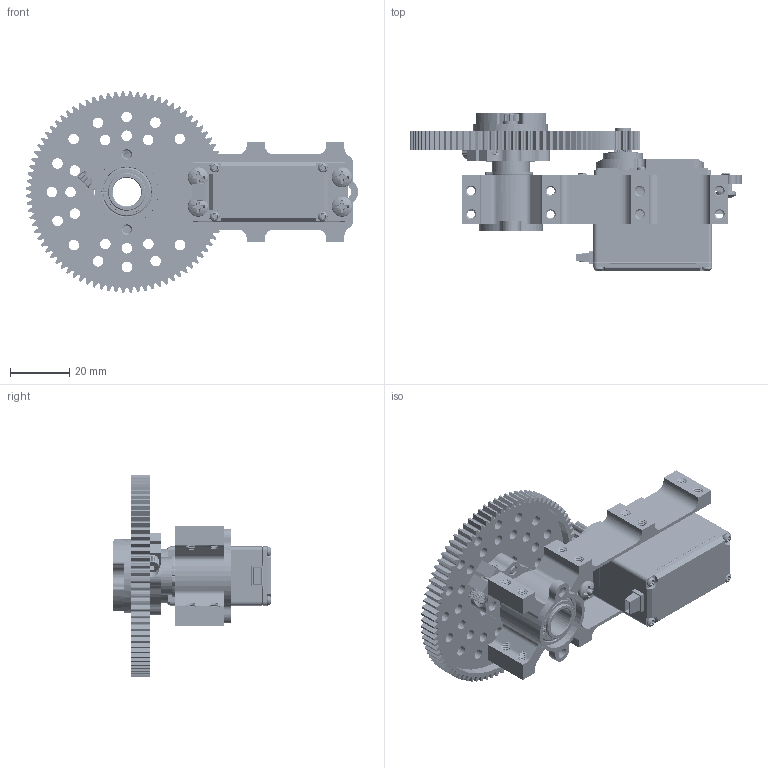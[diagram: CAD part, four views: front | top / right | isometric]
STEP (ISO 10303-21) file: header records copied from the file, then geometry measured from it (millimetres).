
FILE_DESCRIPTION (( 'STEP AP203' ), '1' );
FILE_NAME ('SG20-70.STEP', '2020-06-25T22:01:53', ( '' ), ( '' ), 'SwSTEP 2.0', 'SolidWorks 2016', '' );
FILE_SCHEMA (( 'CONFIG_CONTROL_DESIGN' ));
Length unit declared in the file: millimetre
Products named in the file (9): 545600; 545600 assembly; 632110_90128A121; 615210_Gear Blank; 632114_90128A121; 615294_Gear Blank; SG20-70; 545440; SG20 Part
Assembly tree (8 placements, depth 3):
  SG20-70
    SG20 Part
    545440
    615210_Gear Blank
    632114_90128A121
    545600 assembly
      545600
      632110_90128A121
    615294_Gear Blank
Bounding box: 112.38 x 53.7 x 68.24 mm (x, y, z)
Volume: 59580.3 mm3; surface area: 44888.1 mm2
Topology: 30 solids, 32 shells, 6259 faces, 16409 edges, 10206 vertices
Faces by surface type: cylinder 2885, bspline 1471, plane 1130, torus 357, cone 318, sphere 98
Entity records: 308641 total; most frequent: CARTESIAN_POINT 170740, ORIENTED_EDGE 32712, DIRECTION 24243, EDGE_CURVE 16356, VERTEX_POINT 10208, AXIS2_PLACEMENT_3D 9350, EDGE_LOOP 6486, FACE_OUTER_BOUND 6259
